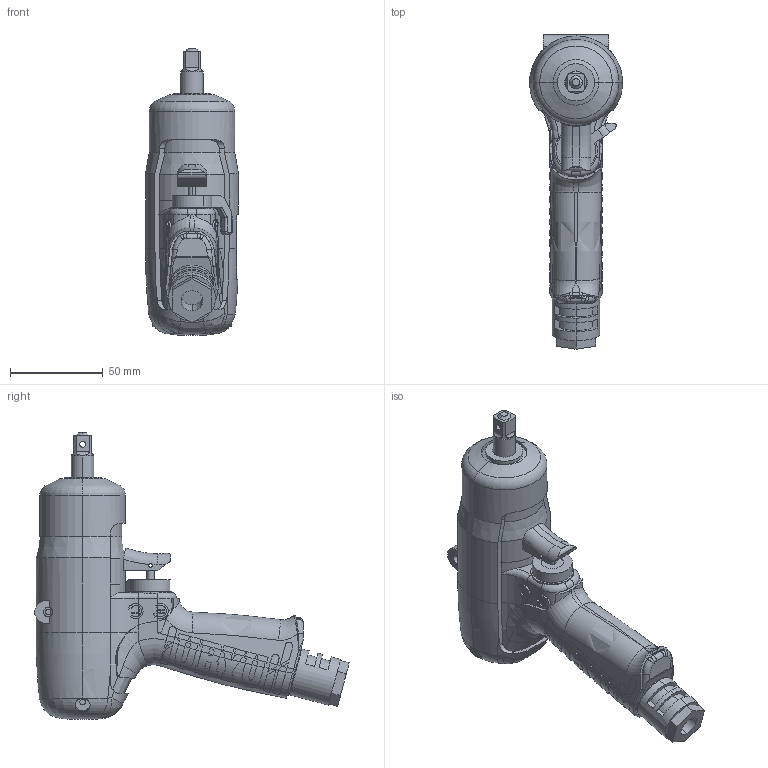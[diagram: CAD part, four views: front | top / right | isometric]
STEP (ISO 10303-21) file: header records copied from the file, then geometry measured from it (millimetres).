
FILE_DESCRIPTION (( 'STEP AP203' ), '1' );
FILE_NAME ('UL70.step', '2006-01-30T05:44:16', ( '山田　善嗣' ), ( 'TECH' ), 'SwSTEP 2.0', 'SolidWorks 2004073', '' );
FILE_SCHEMA (( 'CONFIG_CONTROL_DESIGN' ));
Length unit declared in the file: millimetre
Products named in the file (8): 1433198_UL70_蹬怮椔; 1434398_UL70_蹬怮椔; 1430258_UL70_蹬怮椔; UL70; 1438408_UL70_蹬怮椔; 1478422_UL70_蹬怮椔; 1471072_UL70_蹬怮椔; 4802128_UL70_蹬怮椔
Assembly tree (7 placements, depth 2):
  UL70
    1434398_UL70_蹬怮椔
    4802128_UL70_蹬怮椔
    1471072_UL70_蹬怮椔
    1433198_UL70_蹬怮椔
    1438408_UL70_蹬怮椔
    1430258_UL70_蹬怮椔
    1478422_UL70_蹬怮椔
Bounding box: 50 x 169.04 x 154.27 mm (x, y, z)
Volume: 329318.6 mm3; surface area: 92445.2 mm2
Topology: 7 solids, 7 shells, 1286 faces, 3568 edges, 2302 vertices
Faces by surface type: plane 773, cylinder 244, bspline 196, torus 51, cone 16, sphere 6
Entity records: 112352 total; most frequent: CARTESIAN_POINT 81841, ORIENTED_EDGE 7132, DIRECTION 4861, EDGE_CURVE 3566, VERTEX_POINT 2302, AXIS2_PLACEMENT_3D 1622, VECTOR 1617, LINE 1617
